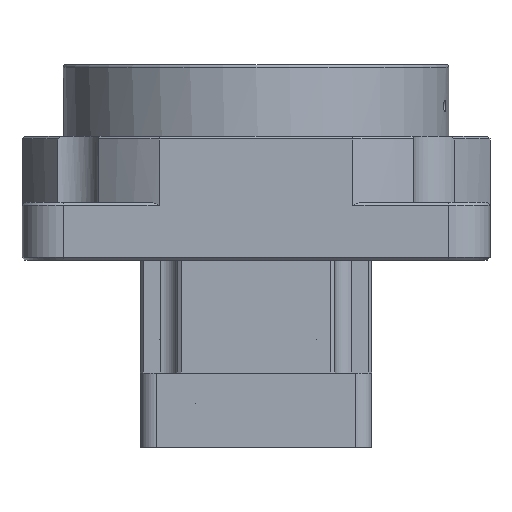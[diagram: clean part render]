
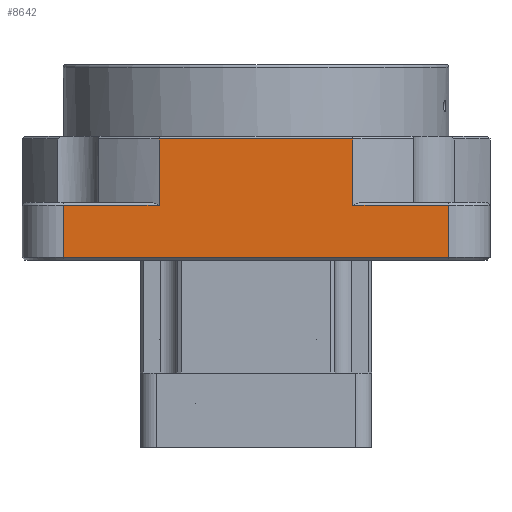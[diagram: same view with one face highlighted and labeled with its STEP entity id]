
A CAD part, left-side view. The second image highlights one B-rep face of the part: STEP entity #8642.
In plain terms, the highlighted planar face has unit normal (-1, 0, 0).
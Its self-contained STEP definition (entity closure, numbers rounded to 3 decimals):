
#7186=CARTESIAN_POINT('',(-42.5,-35.,0.5));
#7187=VERTEX_POINT('',#7186);
#7210=CARTESIAN_POINT('',(-42.5,35.,0.5));
#7211=VERTEX_POINT('',#7210);
#7220=CARTESIAN_POINT('',(-42.5,-35.,0.5));
#7221=DIRECTION('',(0.0,1.0,0.0));
#7222=VECTOR('',#7221,70.0);
#7223=LINE('',#7220,#7222);
#7224=EDGE_CURVE('',#7187,#7211,#7223,.T.);
#7740=CARTESIAN_POINT('',(-42.5,-17.6,22.0));
#7741=VERTEX_POINT('',#7740);
#7774=CARTESIAN_POINT('',(-42.5,17.6,22.0));
#7775=VERTEX_POINT('',#7774);
#7776=CARTESIAN_POINT('',(-42.5,17.6,22.0));
#7777=DIRECTION('',(0.0,-1.0,0.0));
#7778=VECTOR('',#7777,35.199);
#7779=LINE('',#7776,#7778);
#7780=EDGE_CURVE('',#7775,#7741,#7779,.T.);
#8496=CARTESIAN_POINT('',(-42.5,-17.6,10.0));
#8497=VERTEX_POINT('',#8496);
#8505=CARTESIAN_POINT('',(-42.5,-35.,10.0));
#8506=VERTEX_POINT('',#8505);
#8507=CARTESIAN_POINT('',(-42.5,-17.6,10.0));
#8508=DIRECTION('',(0.0,-1.0,0.0));
#8509=VECTOR('',#8508,17.4);
#8510=LINE('',#8507,#8509);
#8511=EDGE_CURVE('',#8497,#8506,#8510,.T.);
#8594=CARTESIAN_POINT('',(-42.5,-35.,10.0));
#8595=DIRECTION('',(0.0,0.0,-1.0));
#8596=VECTOR('',#8595,9.5);
#8597=LINE('',#8594,#8596);
#8598=EDGE_CURVE('',#8506,#7187,#8597,.T.);
#8603=CARTESIAN_POINT('',(-42.5,42.5,0.0));
#8604=DIRECTION('',(-1.0,0.0,0.0));
#8605=DIRECTION('',(0.0,-1.0,0.0));
#8606=AXIS2_PLACEMENT_3D('',#8603,#8604,#8605);
#8607=PLANE('',#8606);
#8608=ORIENTED_EDGE('',*,*,#7224,.F.);
#8609=ORIENTED_EDGE('',*,*,#8598,.F.);
#8610=ORIENTED_EDGE('',*,*,#8511,.F.);
#8611=CARTESIAN_POINT('',(-42.5,-17.6,22.0));
#8612=DIRECTION('',(0.0,0.0,-1.0));
#8613=VECTOR('',#8612,12.0);
#8614=LINE('',#8611,#8613);
#8615=EDGE_CURVE('',#7741,#8497,#8614,.T.);
#8616=ORIENTED_EDGE('',*,*,#8615,.F.);
#8617=ORIENTED_EDGE('',*,*,#7780,.F.);
#8618=CARTESIAN_POINT('',(-42.5,17.6,10.0));
#8619=VERTEX_POINT('',#8618);
#8620=CARTESIAN_POINT('',(-42.5,17.6,10.0));
#8621=DIRECTION('',(0.0,0.0,1.0));
#8622=VECTOR('',#8621,12.0);
#8623=LINE('',#8620,#8622);
#8624=EDGE_CURVE('',#8619,#7775,#8623,.T.);
#8625=ORIENTED_EDGE('',*,*,#8624,.F.);
#8626=CARTESIAN_POINT('',(-42.5,35.,10.0));
#8627=VERTEX_POINT('',#8626);
#8628=CARTESIAN_POINT('',(-42.5,35.,10.0));
#8629=DIRECTION('',(0.0,-1.0,0.0));
#8630=VECTOR('',#8629,17.4);
#8631=LINE('',#8628,#8630);
#8632=EDGE_CURVE('',#8627,#8619,#8631,.T.);
#8633=ORIENTED_EDGE('',*,*,#8632,.F.);
#8634=CARTESIAN_POINT('',(-42.5,35.,0.5));
#8635=DIRECTION('',(0.0,0.0,1.0));
#8636=VECTOR('',#8635,9.5);
#8637=LINE('',#8634,#8636);
#8638=EDGE_CURVE('',#7211,#8627,#8637,.T.);
#8639=ORIENTED_EDGE('',*,*,#8638,.F.);
#8640=EDGE_LOOP('',(#8608,#8609,#8610,#8616,#8617,#8625,#8633,#8639));
#8641=FACE_OUTER_BOUND('',#8640,.T.);
#8642=ADVANCED_FACE('',(#8641),#8607,.T.);
